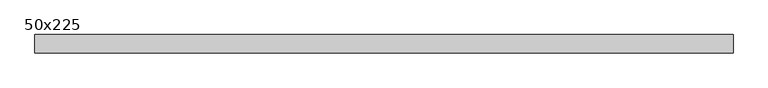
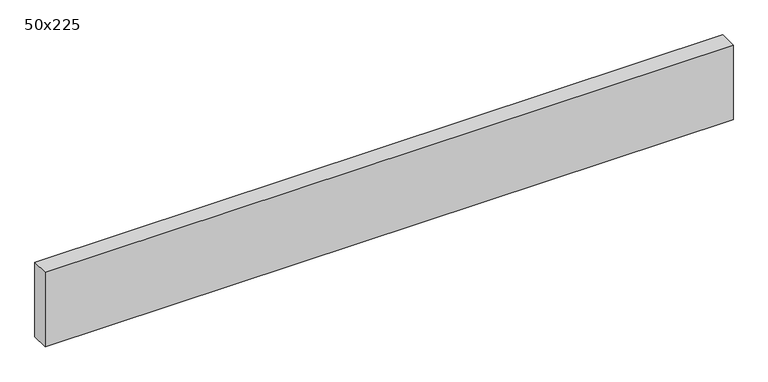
"""IFC4 building model written with IfcOpenShell, lengths in millimetres: beam geometry, Graded Timber : 50x225."""

from ifc_helpers import new_model, si_unit, frame, origin, place, context, project, spatial, polyline, outline, extrude, source, transform, mapped, element, save


def beam_50x225_84408a6f(model_context):
    return source(origin(), model_context, "Body", "SweptSolid", [
        extrude(outline(polyline([(960.5, 25.0), (960.5, -25.0), (-960.5, -25.0), (-960.5, 25.0), (960.5, 25.0)])), frame((0.0, 0.0, -110.0), z_axis=(0.0, 0.0, 1.0), x_axis=(1.0, 0.0, 0.0)), (0.0, 0.0, 1.0), 220.0),
    ])


if __name__ == "__main__":
    model = new_model("IFC4")
    model_context = context("Model", 3, world=origin())
    ifc_project = project(units=[si_unit("LENGTHUNIT", "METRE", prefix="MILLI")], contexts=[model_context])
    site = spatial("IfcSite", under=ifc_project)
    building = spatial("IfcBuilding", under=site)
    placement = place(None, origin())
    beam_50x225_shape = beam_50x225_84408a6f(model_context)
    element("IfcBeam", 1, ObjectType="Graded Timber : 50x225", at=placement, inside=building, context=model_context, shape_type="MappedRepresentation", body=[
        mapped(beam_50x225_shape, transform((0.0, 0.0, 0.0), x_axis=(1.0, 0.0, 0.0), y_axis=(0.0, 1.0, 0.0), z_axis=(0.0, 0.0, 1.0))),
    ])
    save(model, "model.ifc")
